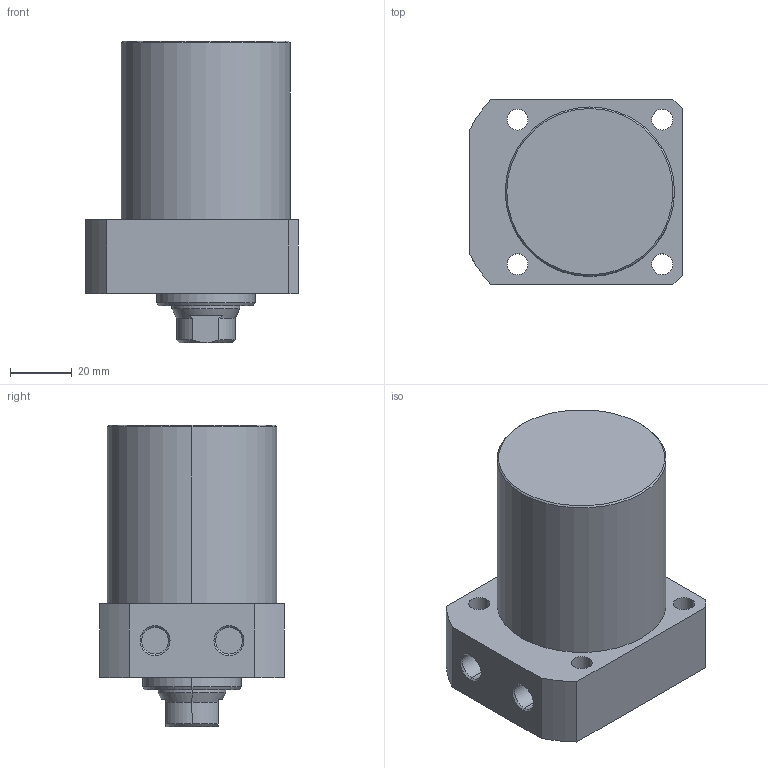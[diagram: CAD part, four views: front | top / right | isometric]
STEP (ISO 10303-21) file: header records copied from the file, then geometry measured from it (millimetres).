
FILE_DESCRIPTION (( 'STEP AP203' ), '1' );
FILE_NAME ('CLLR-055CA-045.STEP', '2019-12-19T07:26:42', ( '' ), ( '' ), 'SwSTEP 2.0', 'SolidWorks 2015', '' );
FILE_SCHEMA (( 'CONFIG_CONTROL_DESIGN' ));
Length unit declared in the file: millimetre
Products named in the file (1): CLLR-055CA-045
Bounding box: 69 x 60 x 98 mm (x, y, z)
Volume: 235434.9 mm3; surface area: 28203.7 mm2
Topology: 1 solids, 1 shells, 65 faces, 151 edges, 94 vertices
Faces by surface type: cylinder 29, plane 19, cone 17
Entity records: 1967 total; most frequent: CARTESIAN_POINT 349, DIRECTION 348, ORIENTED_EDGE 298, EDGE_CURVE 149, AXIS2_PLACEMENT_3D 141, VERTEX_POINT 94, EDGE_LOOP 81, CIRCLE 75
